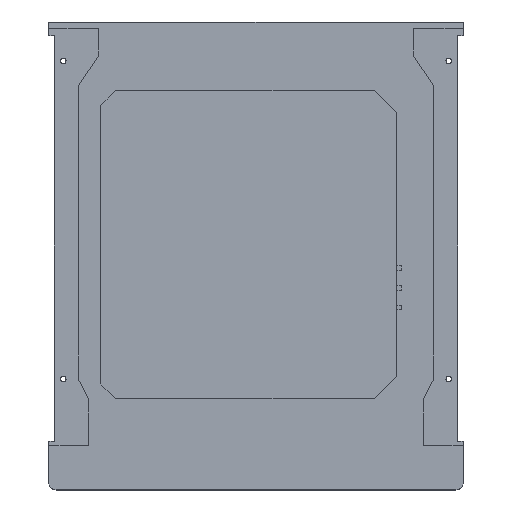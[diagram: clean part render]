
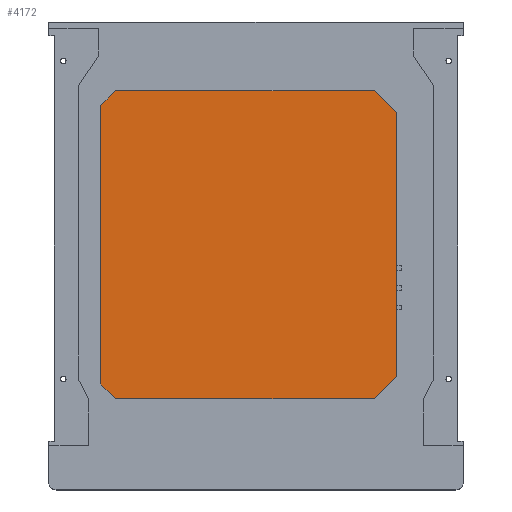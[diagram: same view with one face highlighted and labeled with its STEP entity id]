
A CAD part, top view. The second image highlights one B-rep face of the part: STEP entity #4172.
In plain terms, the highlighted planar face has unit normal (0, 0, 1).
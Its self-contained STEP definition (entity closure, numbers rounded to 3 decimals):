
#819 = PLANE('',#820);
#820 = AXIS2_PLACEMENT_3D('',#821,#822,#823);
#821 = CARTESIAN_POINT('',(141.,46.,51.4));
#822 = DIRECTION('',(-1.,0.,0.));
#823 = DIRECTION('',(0.,1.,0.));
#845 = PLANE('',#846);
#846 = AXIS2_PLACEMENT_3D('',#847,#848,#849);
#847 = CARTESIAN_POINT('',(132.,37.,51.4));
#848 = DIRECTION('',(-0.707,0.707,0.));
#849 = DIRECTION('',(0.707,0.707,0.));
#871 = PLANE('',#872);
#872 = AXIS2_PLACEMENT_3D('',#873,#874,#875);
#873 = CARTESIAN_POINT('',(27.,37.,51.4));
#874 = DIRECTION('',(0.,1.,0.));
#875 = DIRECTION('',(1.,0.,0.));
#897 = PLANE('',#898);
#898 = AXIS2_PLACEMENT_3D('',#899,#900,#901);
#899 = CARTESIAN_POINT('',(21.,43.,51.4));
#900 = DIRECTION('',(0.707,0.707,-0.));
#901 = DIRECTION('',(0.707,-0.707,0.));
#923 = PLANE('',#924);
#924 = AXIS2_PLACEMENT_3D('',#925,#926,#927);
#925 = CARTESIAN_POINT('',(21.,156.,51.4));
#926 = DIRECTION('',(1.,0.,-0.));
#927 = DIRECTION('',(0.,-1.,0.));
#949 = PLANE('',#950);
#950 = AXIS2_PLACEMENT_3D('',#951,#952,#953);
#951 = CARTESIAN_POINT('',(27.,162.,51.4));
#952 = DIRECTION('',(0.707,-0.707,0.));
#953 = DIRECTION('',(-0.707,-0.707,0.));
#975 = PLANE('',#976);
#976 = AXIS2_PLACEMENT_3D('',#977,#978,#979);
#977 = CARTESIAN_POINT('',(132.,162.,51.4));
#978 = DIRECTION('',(0.,-1.,0.));
#979 = DIRECTION('',(-1.,0.,0.));
#1001 = PLANE('',#1002);
#1002 = AXIS2_PLACEMENT_3D('',#1003,#1004,#1005);
#1003 = CARTESIAN_POINT('',(141.,153.,51.4));
#1004 = DIRECTION('',(-0.707,-0.707,0.));
#1005 = DIRECTION('',(-0.707,0.707,0.));
#3030 = EDGE_CURVE('',#3031,#3033,#3035,.T.);
#3031 = VERTEX_POINT('',#3032);
#3032 = CARTESIAN_POINT('',(141.,46.,51.4));
#3033 = VERTEX_POINT('',#3034);
#3034 = CARTESIAN_POINT('',(141.,153.,51.4));
#3035 = SURFACE_CURVE('',#3036,(#3040,#3047),.PCURVE_S1.);
#3036 = LINE('',#3037,#3038);
#3037 = CARTESIAN_POINT('',(141.,46.,51.4));
#3038 = VECTOR('',#3039,1.);
#3039 = DIRECTION('',(0.,1.,0.));
#3040 = PCURVE('',#819,#3041);
#3041 = DEFINITIONAL_REPRESENTATION('',(#3042),#3046);
#3042 = LINE('',#3043,#3044);
#3043 = CARTESIAN_POINT('',(0.,0.));
#3044 = VECTOR('',#3045,1.);
#3045 = DIRECTION('',(1.,0.));
#3046 = ( GEOMETRIC_REPRESENTATION_CONTEXT(2) 
PARAMETRIC_REPRESENTATION_CONTEXT() REPRESENTATION_CONTEXT('2D SPACE',''
  ) );
#3047 = PCURVE('',#3048,#3053);
#3048 = PLANE('',#3049);
#3049 = AXIS2_PLACEMENT_3D('',#3050,#3051,#3052);
#3050 = CARTESIAN_POINT('',(80.514,99.5,51.4));
#3051 = DIRECTION('',(0.,0.,1.));
#3052 = DIRECTION('',(1.,0.,-0.));
#3053 = DEFINITIONAL_REPRESENTATION('',(#3054),#3058);
#3054 = LINE('',#3055,#3056);
#3055 = CARTESIAN_POINT('',(60.486,-53.5));
#3056 = VECTOR('',#3057,1.);
#3057 = DIRECTION('',(0.,1.));
#3058 = ( GEOMETRIC_REPRESENTATION_CONTEXT(2) 
PARAMETRIC_REPRESENTATION_CONTEXT() REPRESENTATION_CONTEXT('2D SPACE',''
  ) );
#3262 = EDGE_CURVE('',#3263,#3031,#3265,.T.);
#3263 = VERTEX_POINT('',#3264);
#3264 = CARTESIAN_POINT('',(132.,37.,51.4));
#3265 = SURFACE_CURVE('',#3266,(#3270,#3277),.PCURVE_S1.);
#3266 = LINE('',#3267,#3268);
#3267 = CARTESIAN_POINT('',(132.,37.,51.4));
#3268 = VECTOR('',#3269,1.);
#3269 = DIRECTION('',(0.707,0.707,0.));
#3270 = PCURVE('',#845,#3271);
#3271 = DEFINITIONAL_REPRESENTATION('',(#3272),#3276);
#3272 = LINE('',#3273,#3274);
#3273 = CARTESIAN_POINT('',(0.,0.));
#3274 = VECTOR('',#3275,1.);
#3275 = DIRECTION('',(1.,0.));
#3276 = ( GEOMETRIC_REPRESENTATION_CONTEXT(2) 
PARAMETRIC_REPRESENTATION_CONTEXT() REPRESENTATION_CONTEXT('2D SPACE',''
  ) );
#3277 = PCURVE('',#3048,#3278);
#3278 = DEFINITIONAL_REPRESENTATION('',(#3279),#3283);
#3279 = LINE('',#3280,#3281);
#3280 = CARTESIAN_POINT('',(51.486,-62.5));
#3281 = VECTOR('',#3282,1.);
#3282 = DIRECTION('',(0.707,0.707));
#3283 = ( GEOMETRIC_REPRESENTATION_CONTEXT(2) 
PARAMETRIC_REPRESENTATION_CONTEXT() REPRESENTATION_CONTEXT('2D SPACE',''
  ) );
#3360 = EDGE_CURVE('',#3361,#3263,#3363,.T.);
#3361 = VERTEX_POINT('',#3362);
#3362 = CARTESIAN_POINT('',(27.,37.,51.4));
#3363 = SURFACE_CURVE('',#3364,(#3368,#3375),.PCURVE_S1.);
#3364 = LINE('',#3365,#3366);
#3365 = CARTESIAN_POINT('',(27.,37.,51.4));
#3366 = VECTOR('',#3367,1.);
#3367 = DIRECTION('',(1.,0.,0.));
#3368 = PCURVE('',#871,#3369);
#3369 = DEFINITIONAL_REPRESENTATION('',(#3370),#3374);
#3370 = LINE('',#3371,#3372);
#3371 = CARTESIAN_POINT('',(0.,0.));
#3372 = VECTOR('',#3373,1.);
#3373 = DIRECTION('',(1.,0.));
#3374 = ( GEOMETRIC_REPRESENTATION_CONTEXT(2) 
PARAMETRIC_REPRESENTATION_CONTEXT() REPRESENTATION_CONTEXT('2D SPACE',''
  ) );
#3375 = PCURVE('',#3048,#3376);
#3376 = DEFINITIONAL_REPRESENTATION('',(#3377),#3381);
#3377 = LINE('',#3378,#3379);
#3378 = CARTESIAN_POINT('',(-53.514,-62.5));
#3379 = VECTOR('',#3380,1.);
#3380 = DIRECTION('',(1.,0.));
#3381 = ( GEOMETRIC_REPRESENTATION_CONTEXT(2) 
PARAMETRIC_REPRESENTATION_CONTEXT() REPRESENTATION_CONTEXT('2D SPACE',''
  ) );
#3458 = EDGE_CURVE('',#3459,#3361,#3461,.T.);
#3459 = VERTEX_POINT('',#3460);
#3460 = CARTESIAN_POINT('',(21.,43.,51.4));
#3461 = SURFACE_CURVE('',#3462,(#3466,#3473),.PCURVE_S1.);
#3462 = LINE('',#3463,#3464);
#3463 = CARTESIAN_POINT('',(21.,43.,51.4));
#3464 = VECTOR('',#3465,1.);
#3465 = DIRECTION('',(0.707,-0.707,0.));
#3466 = PCURVE('',#897,#3467);
#3467 = DEFINITIONAL_REPRESENTATION('',(#3468),#3472);
#3468 = LINE('',#3469,#3470);
#3469 = CARTESIAN_POINT('',(0.,0.));
#3470 = VECTOR('',#3471,1.);
#3471 = DIRECTION('',(1.,0.));
#3472 = ( GEOMETRIC_REPRESENTATION_CONTEXT(2) 
PARAMETRIC_REPRESENTATION_CONTEXT() REPRESENTATION_CONTEXT('2D SPACE',''
  ) );
#3473 = PCURVE('',#3048,#3474);
#3474 = DEFINITIONAL_REPRESENTATION('',(#3475),#3479);
#3475 = LINE('',#3476,#3477);
#3476 = CARTESIAN_POINT('',(-59.514,-56.5));
#3477 = VECTOR('',#3478,1.);
#3478 = DIRECTION('',(0.707,-0.707));
#3479 = ( GEOMETRIC_REPRESENTATION_CONTEXT(2) 
PARAMETRIC_REPRESENTATION_CONTEXT() REPRESENTATION_CONTEXT('2D SPACE',''
  ) );
#3534 = EDGE_CURVE('',#3535,#3459,#3537,.T.);
#3535 = VERTEX_POINT('',#3536);
#3536 = CARTESIAN_POINT('',(21.,156.,51.4));
#3537 = SURFACE_CURVE('',#3538,(#3542,#3549),.PCURVE_S1.);
#3538 = LINE('',#3539,#3540);
#3539 = CARTESIAN_POINT('',(21.,156.,51.4));
#3540 = VECTOR('',#3541,1.);
#3541 = DIRECTION('',(0.,-1.,0.));
#3542 = PCURVE('',#923,#3543);
#3543 = DEFINITIONAL_REPRESENTATION('',(#3544),#3548);
#3544 = LINE('',#3545,#3546);
#3545 = CARTESIAN_POINT('',(0.,0.));
#3546 = VECTOR('',#3547,1.);
#3547 = DIRECTION('',(1.,0.));
#3548 = ( GEOMETRIC_REPRESENTATION_CONTEXT(2) 
PARAMETRIC_REPRESENTATION_CONTEXT() REPRESENTATION_CONTEXT('2D SPACE',''
  ) );
#3549 = PCURVE('',#3048,#3550);
#3550 = DEFINITIONAL_REPRESENTATION('',(#3551),#3555);
#3551 = LINE('',#3552,#3553);
#3552 = CARTESIAN_POINT('',(-59.514,56.5));
#3553 = VECTOR('',#3554,1.);
#3554 = DIRECTION('',(0.,-1.));
#3555 = ( GEOMETRIC_REPRESENTATION_CONTEXT(2) 
PARAMETRIC_REPRESENTATION_CONTEXT() REPRESENTATION_CONTEXT('2D SPACE',''
  ) );
#3583 = EDGE_CURVE('',#3584,#3535,#3586,.T.);
#3584 = VERTEX_POINT('',#3585);
#3585 = CARTESIAN_POINT('',(27.,162.,51.4));
#3586 = SURFACE_CURVE('',#3587,(#3591,#3598),.PCURVE_S1.);
#3587 = LINE('',#3588,#3589);
#3588 = CARTESIAN_POINT('',(27.,162.,51.4));
#3589 = VECTOR('',#3590,1.);
#3590 = DIRECTION('',(-0.707,-0.707,0.));
#3591 = PCURVE('',#949,#3592);
#3592 = DEFINITIONAL_REPRESENTATION('',(#3593),#3597);
#3593 = LINE('',#3594,#3595);
#3594 = CARTESIAN_POINT('',(0.,0.));
#3595 = VECTOR('',#3596,1.);
#3596 = DIRECTION('',(1.,0.));
#3597 = ( GEOMETRIC_REPRESENTATION_CONTEXT(2) 
PARAMETRIC_REPRESENTATION_CONTEXT() REPRESENTATION_CONTEXT('2D SPACE',''
  ) );
#3598 = PCURVE('',#3048,#3599);
#3599 = DEFINITIONAL_REPRESENTATION('',(#3600),#3604);
#3600 = LINE('',#3601,#3602);
#3601 = CARTESIAN_POINT('',(-53.514,62.5));
#3602 = VECTOR('',#3603,1.);
#3603 = DIRECTION('',(-0.707,-0.707));
#3604 = ( GEOMETRIC_REPRESENTATION_CONTEXT(2) 
PARAMETRIC_REPRESENTATION_CONTEXT() REPRESENTATION_CONTEXT('2D SPACE',''
  ) );
#3681 = EDGE_CURVE('',#3682,#3584,#3684,.T.);
#3682 = VERTEX_POINT('',#3683);
#3683 = CARTESIAN_POINT('',(132.,162.,51.4));
#3684 = SURFACE_CURVE('',#3685,(#3689,#3696),.PCURVE_S1.);
#3685 = LINE('',#3686,#3687);
#3686 = CARTESIAN_POINT('',(132.,162.,51.4));
#3687 = VECTOR('',#3688,1.);
#3688 = DIRECTION('',(-1.,0.,0.));
#3689 = PCURVE('',#975,#3690);
#3690 = DEFINITIONAL_REPRESENTATION('',(#3691),#3695);
#3691 = LINE('',#3692,#3693);
#3692 = CARTESIAN_POINT('',(0.,-0.));
#3693 = VECTOR('',#3694,1.);
#3694 = DIRECTION('',(1.,0.));
#3695 = ( GEOMETRIC_REPRESENTATION_CONTEXT(2) 
PARAMETRIC_REPRESENTATION_CONTEXT() REPRESENTATION_CONTEXT('2D SPACE',''
  ) );
#3696 = PCURVE('',#3048,#3697);
#3697 = DEFINITIONAL_REPRESENTATION('',(#3698),#3702);
#3698 = LINE('',#3699,#3700);
#3699 = CARTESIAN_POINT('',(51.486,62.5));
#3700 = VECTOR('',#3701,1.);
#3701 = DIRECTION('',(-1.,0.));
#3702 = ( GEOMETRIC_REPRESENTATION_CONTEXT(2) 
PARAMETRIC_REPRESENTATION_CONTEXT() REPRESENTATION_CONTEXT('2D SPACE',''
  ) );
#3779 = EDGE_CURVE('',#3033,#3682,#3780,.T.);
#3780 = SURFACE_CURVE('',#3781,(#3785,#3792),.PCURVE_S1.);
#3781 = LINE('',#3782,#3783);
#3782 = CARTESIAN_POINT('',(141.,153.,51.4));
#3783 = VECTOR('',#3784,1.);
#3784 = DIRECTION('',(-0.707,0.707,0.));
#3785 = PCURVE('',#1001,#3786);
#3786 = DEFINITIONAL_REPRESENTATION('',(#3787),#3791);
#3787 = LINE('',#3788,#3789);
#3788 = CARTESIAN_POINT('',(0.,0.));
#3789 = VECTOR('',#3790,1.);
#3790 = DIRECTION('',(1.,0.));
#3791 = ( GEOMETRIC_REPRESENTATION_CONTEXT(2) 
PARAMETRIC_REPRESENTATION_CONTEXT() REPRESENTATION_CONTEXT('2D SPACE',''
  ) );
#3792 = PCURVE('',#3048,#3793);
#3793 = DEFINITIONAL_REPRESENTATION('',(#3794),#3798);
#3794 = LINE('',#3795,#3796);
#3795 = CARTESIAN_POINT('',(60.486,53.5));
#3796 = VECTOR('',#3797,1.);
#3797 = DIRECTION('',(-0.707,0.707));
#3798 = ( GEOMETRIC_REPRESENTATION_CONTEXT(2) 
PARAMETRIC_REPRESENTATION_CONTEXT() REPRESENTATION_CONTEXT('2D SPACE',''
  ) );
#4172 = ADVANCED_FACE('',(#4173),#3048,.T.);
#4173 = FACE_BOUND('',#4174,.T.);
#4174 = EDGE_LOOP('',(#4175,#4176,#4177,#4178,#4179,#4180,#4181,#4182));
#4175 = ORIENTED_EDGE('',*,*,#3360,.T.);
#4176 = ORIENTED_EDGE('',*,*,#3262,.T.);
#4177 = ORIENTED_EDGE('',*,*,#3030,.T.);
#4178 = ORIENTED_EDGE('',*,*,#3779,.T.);
#4179 = ORIENTED_EDGE('',*,*,#3681,.T.);
#4180 = ORIENTED_EDGE('',*,*,#3583,.T.);
#4181 = ORIENTED_EDGE('',*,*,#3534,.T.);
#4182 = ORIENTED_EDGE('',*,*,#3458,.T.);
